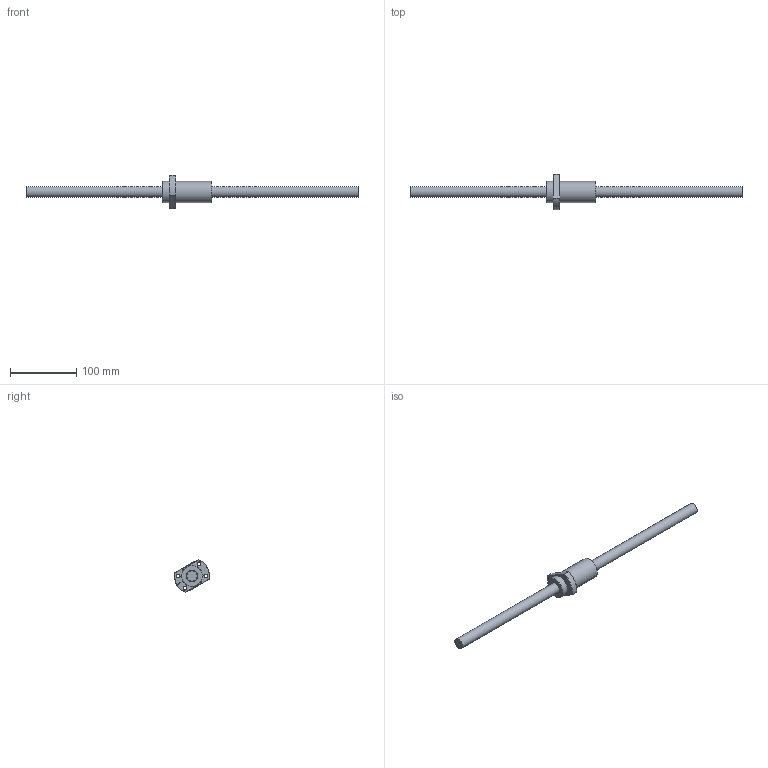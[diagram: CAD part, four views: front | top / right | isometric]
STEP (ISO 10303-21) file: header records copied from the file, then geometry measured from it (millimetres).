
FILE_DESCRIPTION (( 'STEP AP203' ), '1' );
FILE_NAME ('SFY01632-3.6.step', '2024-05-21T08:56:35', ( '' ), ( '' ), 'SwSTEP 2.0', 'SolidWorks 2022', '' );
FILE_SCHEMA (( 'CONFIG_CONTROL_DESIGN' ));
Length unit declared in the file: millimetre
Products named in the file (1): SFY01632-3.6
Bounding box: 500 x 53 x 49.77 mm (x, y, z)
Volume: 149380.2 mm3; surface area: 41120.4 mm2
Topology: 2 solids, 2 shells, 51 faces, 118 edges, 73 vertices
Faces by surface type: cylinder 18, plane 13, cone 9, torus 6, bspline 5
Full cylindrical faces by diameter (mm): 2.5 x1, 4.5 x4, 5 x6, 16 x1, 17.9 x1, 32 x2
Entity records: 2974 total; most frequent: CARTESIAN_POINT 2056, DIRECTION 168, ORIENTED_EDGE 140, EDGE_LOOP 80, AXIS2_PLACEMENT_3D 76, EDGE_CURVE 70, FACE_OUTER_BOUND 57, VERTEX_POINT 54
